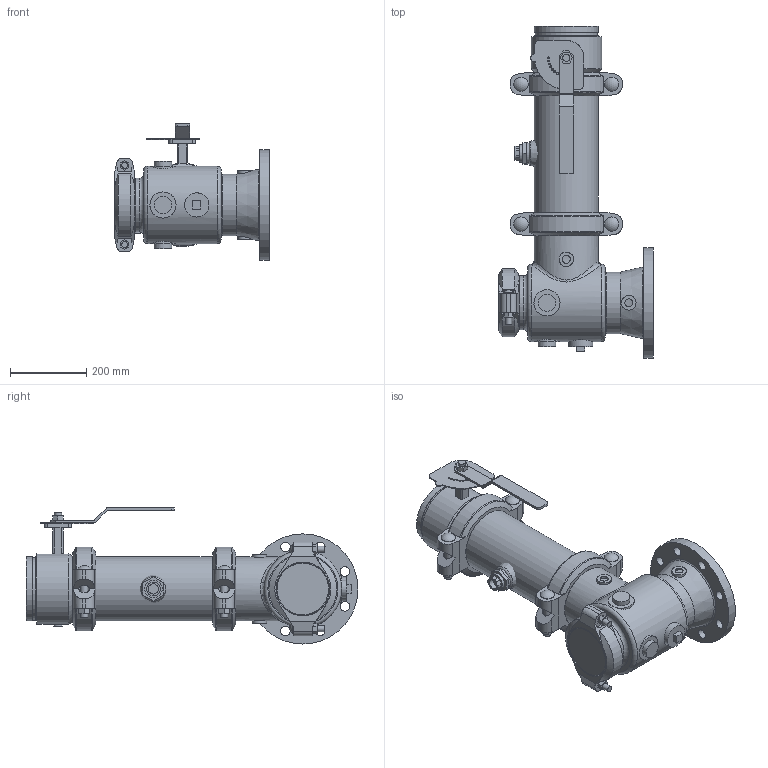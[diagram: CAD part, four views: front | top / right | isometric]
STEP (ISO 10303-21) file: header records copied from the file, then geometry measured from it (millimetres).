
FILE_DESCRIPTION(/* description */ ('VIC SVI PUMP DROP HORZ S/391 (OGSxFLG)','CAx-IF Rec.Pracs.---Representation and Presentation of Product Manufacturing Information (PMI)---4.0---2014-10-13'),/* implementation_level */ '2;1');
FILE_NAME(/* name */ 'C:\Users\kkamble\AppData\Roaming\Autodesk\ApplicationPlugins\Back Up\Victaulic_PN10_Series 391 (OGSxFLG)\Victaulic_PN10_Series 391 (OGSxFLG)_06.0x06.0 (150x150).stp',/* time_stamp */ '2020-11-26T23:44:51+05:00',/* author */ ('kkamble'),/* organization */ ('Victaulic'),/* preprocessor_version */ 'ST-DEVELOPER v17.2',/* originating_system */ 'Autodesk Inventor 2019',/* authorisation */ '');
FILE_SCHEMA (('AP242_MANAGED_MODEL_BASED_3D_ENGINEERING_MIM_LF { 1 0 10303 442 1 1 4 }'));
Length unit declared in the file: inch
Products named in the file (9): 391-06.0x06.0; 731D-06.0x06.0; 731D-06.0x06.0_1; 731D-06.0; 07-05.0; PIPE-06.0; 177N-06.0; 761-06.0; 923-04.0x0.75
Assembly tree (9 placements, depth 3):
  391-06.0x06.0
    731D-06.0x06.0
      731D-06.0x06.0_1
      731D-06.0
      07-05.0
    177N-06.0  x2
    PIPE-06.0
    761-06.0
    923-04.0x0.75
Bounding box: 406.4 x 871.73 x 357.63 mm (x, y, z)
Volume: 12124241.5 mm3; surface area: 1742240.6 mm2
Topology: 8 solids, 11 shells, 535 faces, 1383 edges, 933 vertices
Faces by surface type: plane 298, cylinder 191, cone 19, torus 17, sphere 6, bspline 4
Full cylindrical faces by diameter (mm): 4.826 x10, 8.636 x4, 15.875 x4, 19.05 x6, 20.955 x4, 22.86 x1, 24.994 x8, 25.4 x2, 26.67 x1, 37.694 x4, 38.1 x4, 45.72 x3, 45.974 x2, 55.118 x1, 55.626 x1, 63.5 x1, 104.902 x1, 112.776 x1, 121.412 x1, 134.95 x1, 137.033 x2, 141.3 x5, 146.558 x1, 152.4 x1, 154.051 x2, 155.575 x2, 161.544 x1, 163.957 x5, 168.275 x13, 185.42 x1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
Entity records: 15814 total; most frequent: CARTESIAN_POINT 3698, DIRECTION 2483, ORIENTED_EDGE 2284, EDGE_CURVE 1142, AXIS2_PLACEMENT_3D 949, VERTEX_POINT 773, LINE 585, VECTOR 585
